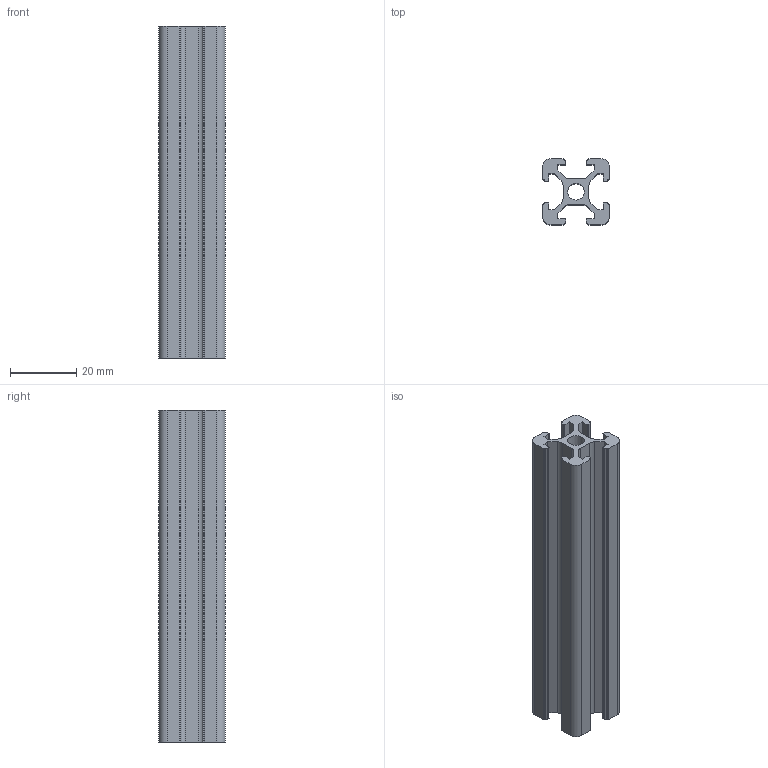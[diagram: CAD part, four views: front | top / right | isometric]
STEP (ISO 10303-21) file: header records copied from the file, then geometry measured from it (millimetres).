
FILE_DESCRIPTION((''),'2;1');
FILE_NAME('E:\catalogue and flyer\Profile catalogue 2015\profile-step file,31MAr16\PS2020-6.stp','2016-03-31T13:44:43',('h029'),(''),'Autodesk Inventor 11','Autodesk Inventor 11','');
FILE_SCHEMA(('AUTOMOTIVE_DESIGN { 1 0 10303 214 1 1 1 1 }'));
Length unit declared in the file: millimetre
Products named in the file (1): ps2020-6
Bounding box: 20 x 20 x 100 mm (x, y, z)
Volume: 16770.1 mm3; surface area: 16572.3 mm2
Topology: 1 solids, 1 shells, 99 faces, 291 edges, 194 vertices
Faces by surface type: plane 62, cylinder 37
Full cylindrical faces by diameter (mm): 5 x1
Entity records: 3321 total; most frequent: CARTESIAN_POINT 584, ORIENTED_EDGE 580, DIRECTION 564, EDGE_CURVE 290, VECTOR 216, LINE 216, VERTEX_POINT 194, AXIS2_PLACEMENT_3D 174
